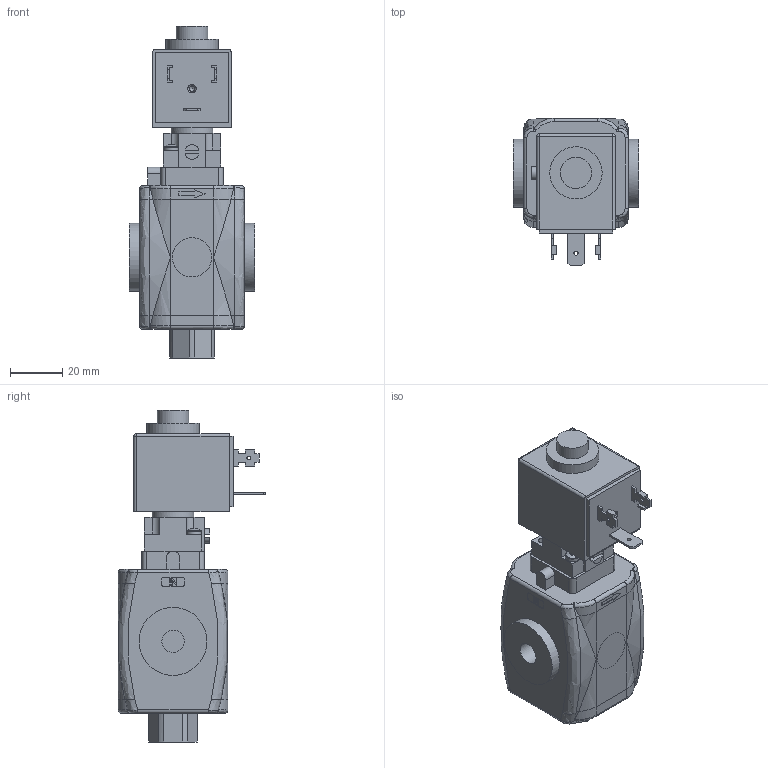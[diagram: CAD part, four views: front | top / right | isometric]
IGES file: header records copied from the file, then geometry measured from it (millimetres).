
Global section: file name: No Iges File Name specified; native system: Autodesk Inventor 2013; preprocessor: AutoDesk Inventor Iges Exporter R2013; author: valotma1; date: 20130610.104422; units: millimetre
Bounding box: 48 x 56.5 x 127 mm (x, y, z)
Volume: 140097.8 mm3; surface area: 26755.2 mm2
Topology: 5 solids, 5 shells, 431 faces, 1039 edges, 655 vertices
Faces by surface type: bspline 431
